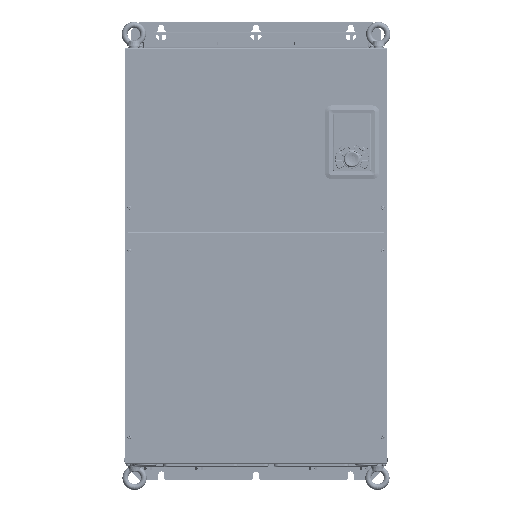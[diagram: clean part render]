
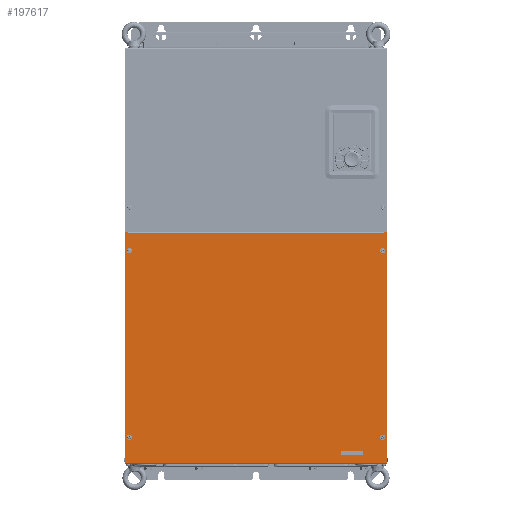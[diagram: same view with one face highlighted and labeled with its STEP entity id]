
A CAD part, top view. The second image highlights one B-rep face of the part: STEP entity #197617.
In plain terms, the highlighted planar face has unit normal (0, 0, 1).
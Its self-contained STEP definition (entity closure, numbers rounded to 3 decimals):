
#196637=DIRECTION('',(1.,0.,0.));
#196638=VECTOR('',#196637,488.);
#196639=CARTESIAN_POINT('',(-244.,218.7,1.2));
#196640=LINE('',#196639,#196638);
#196812=DIRECTION('',(0.,1.,0.));
#196813=VECTOR('',#196812,1.2);
#196814=CARTESIAN_POINT('',(244.,218.7,1.2));
#196815=LINE('',#196814,#196813);
#196816=DIRECTION('',(-1.,0.,0.));
#196817=VECTOR('',#196816,4.3);
#196818=CARTESIAN_POINT('',(248.3,219.9,1.2));
#196819=LINE('',#196818,#196817);
#196820=DIRECTION('',(-1.,0.,0.));
#196821=VECTOR('',#196820,4.3);
#196822=CARTESIAN_POINT('',(-244.,219.9,1.2));
#196823=LINE('',#196822,#196821);
#196824=DIRECTION('',(0.,1.,0.));
#196825=VECTOR('',#196824,1.2);
#196826=CARTESIAN_POINT('',(-244.,218.7,1.2));
#196827=LINE('',#196826,#196825);
#196828=DIRECTION('',(0.,1.,0.));
#196829=VECTOR('',#196828,7.);
#196830=CARTESIAN_POINT('',(162.,-203.4,1.2));
#196831=LINE('',#196830,#196829);
#196832=DIRECTION('',(-1.,0.,0.));
#196833=VECTOR('',#196832,41.);
#196834=CARTESIAN_POINT('',(203.,-203.4,1.2));
#196835=LINE('',#196834,#196833);
#196836=DIRECTION('',(0.,-1.,0.));
#196837=VECTOR('',#196836,7.);
#196838=CARTESIAN_POINT('',(203.,-196.4,1.2));
#196839=LINE('',#196838,#196837);
#196840=DIRECTION('',(1.,0.,0.));
#196841=VECTOR('',#196840,41.);
#196842=CARTESIAN_POINT('',(162.,-196.4,1.2));
#196843=LINE('',#196842,#196841);
#196857=DIRECTION('',(0.,-1.,0.));
#196858=VECTOR('',#196857,438.1);
#196859=CARTESIAN_POINT('',(248.3,219.9,1.2));
#196860=LINE('',#196859,#196858);
#196945=DIRECTION('',(-1.,0.,0.));
#196946=VECTOR('',#196945,496.6);
#196947=CARTESIAN_POINT('',(248.3,-218.2,1.2));
#196948=LINE('',#196947,#196946);
#197075=DIRECTION('',(0.,1.,0.));
#197076=VECTOR('',#197075,438.1);
#197077=CARTESIAN_POINT('',(-248.3,-218.2,1.2));
#197078=LINE('',#197077,#197076);
#197134=CARTESIAN_POINT('',(248.3,219.9,1.2));
#197135=VERTEX_POINT('',#197134);
#197156=CARTESIAN_POINT('',(-248.3,219.9,1.2));
#197157=VERTEX_POINT('',#197156);
#197174=CARTESIAN_POINT('',(-248.3,-218.2,1.2));
#197175=VERTEX_POINT('',#197174);
#197178=CARTESIAN_POINT('',(248.3,-218.2,1.2));
#197179=VERTEX_POINT('',#197178);
#197200=CARTESIAN_POINT('',(244.,218.7,1.2));
#197201=VERTEX_POINT('',#197200);
#197202=CARTESIAN_POINT('',(-244.,218.7,1.2));
#197203=VERTEX_POINT('',#197202);
#197210=CARTESIAN_POINT('',(244.,219.9,1.2));
#197211=VERTEX_POINT('',#197210);
#197214=CARTESIAN_POINT('',(-244.,219.9,1.2));
#197215=VERTEX_POINT('',#197214);
#197228=CARTESIAN_POINT('',(162.,-203.4,1.2));
#197229=CARTESIAN_POINT('',(162.,-196.4,1.2));
#197230=VERTEX_POINT('',#197228);
#197231=VERTEX_POINT('',#197229);
#197232=CARTESIAN_POINT('',(203.,-196.4,1.2));
#197233=VERTEX_POINT('',#197232);
#197234=CARTESIAN_POINT('',(203.,-203.4,1.2));
#197235=VERTEX_POINT('',#197234);
#197589=CARTESIAN_POINT('',(0.,0.,1.2));
#197590=DIRECTION('',(0.,0.,1.));
#197591=DIRECTION('',(1.,0.,0.));
#197592=AXIS2_PLACEMENT_3D('',#197589,#197590,#197591);
#197593=PLANE('',#197592);
#197594=ORIENTED_EDGE('',*,*,#197282,.T.);
#197595=ORIENTED_EDGE('',*,*,#197583,.T.);
#197596=ORIENTED_EDGE('',*,*,#197557,.F.);
#197598=ORIENTED_EDGE('',*,*,#197597,.T.);
#197600=ORIENTED_EDGE('',*,*,#197599,.T.);
#197602=ORIENTED_EDGE('',*,*,#197601,.T.);
#197603=ORIENTED_EDGE('',*,*,#197568,.F.);
#197604=ORIENTED_EDGE('',*,*,#197495,.F.);
#197605=EDGE_LOOP('',(#197594,#197595,#197596,#197598,#197600,#197602,#197603,
#197604));
#197606=FACE_OUTER_BOUND('',#197605,.F.);
#197608=ORIENTED_EDGE('',*,*,#197607,.F.);
#197610=ORIENTED_EDGE('',*,*,#197609,.F.);
#197612=ORIENTED_EDGE('',*,*,#197611,.F.);
#197614=ORIENTED_EDGE('',*,*,#197613,.F.);
#197615=EDGE_LOOP('',(#197608,#197610,#197612,#197614));
#197616=FACE_BOUND('',#197615,.F.);
#197282=EDGE_CURVE('',#197203,#197201,#196640,.T.);
#197495=EDGE_CURVE('',#197203,#197215,#196827,.T.);
#197557=EDGE_CURVE('',#197135,#197211,#196819,.T.);
#197568=EDGE_CURVE('',#197215,#197157,#196823,.T.);
#197583=EDGE_CURVE('',#197201,#197211,#196815,.T.);
#197597=EDGE_CURVE('',#197135,#197179,#196860,.T.);
#197599=EDGE_CURVE('',#197179,#197175,#196948,.T.);
#197601=EDGE_CURVE('',#197175,#197157,#197078,.T.);
#197607=EDGE_CURVE('',#197230,#197231,#196831,.T.);
#197609=EDGE_CURVE('',#197235,#197230,#196835,.T.);
#197611=EDGE_CURVE('',#197233,#197235,#196839,.T.);
#197613=EDGE_CURVE('',#197231,#197233,#196843,.T.);
#197617=ADVANCED_FACE('',(#197606,#197616),#197593,.T.);
